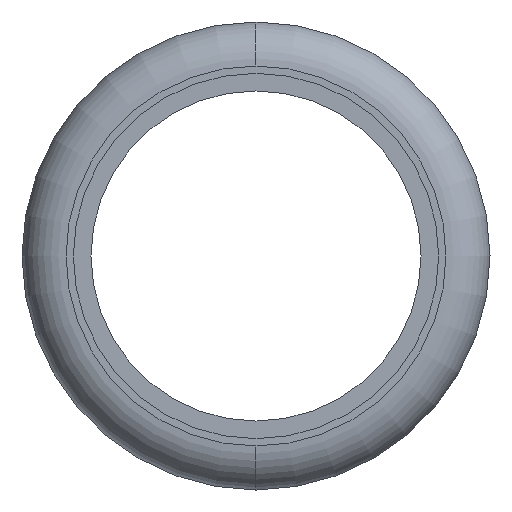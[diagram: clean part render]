
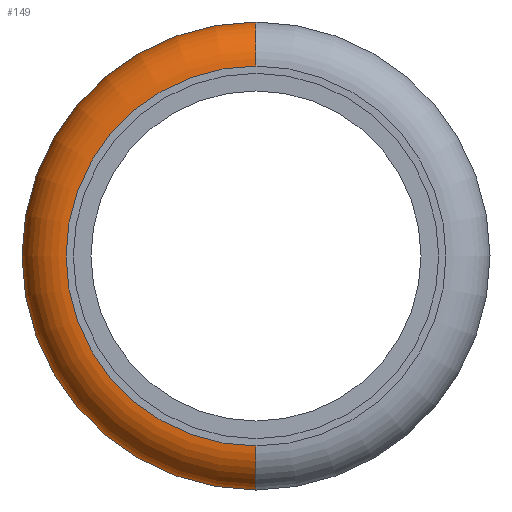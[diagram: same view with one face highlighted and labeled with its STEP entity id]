
A CAD part, left-side view. The second image highlights one B-rep face of the part: STEP entity #149.
In plain terms, the highlighted toroidal (fillet/blend) face has major radius 12.95 mm and minor radius 3 mm.
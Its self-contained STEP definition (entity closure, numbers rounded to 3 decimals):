
#149=ADVANCED_FACE('',(#334),#335,.T.);
#334=FACE_OUTER_BOUND('',#570,.T.);
#335=TOROIDAL_SURFACE('',#571,12.95,3.);
#570=EDGE_LOOP('',(#935,#936,#937,#938));
#571=AXIS2_PLACEMENT_3D('',#939,#940,#941);
#935=ORIENTED_EDGE('',*,*,#1329,.T.);
#936=ORIENTED_EDGE('',*,*,#1395,.F.);
#937=ORIENTED_EDGE('',*,*,#1396,.F.);
#938=ORIENTED_EDGE('',*,*,#1397,.F.);
#939=CARTESIAN_POINT('',(8.,0.0,0.));
#940=DIRECTION('',(-1.0,0.0,0.));
#941=DIRECTION('',(0.,0.0,1.0));
#1329=EDGE_CURVE('',#1528,#1527,#1572,.T.);
#1395=EDGE_CURVE('',#1674,#1527,#1675,.T.);
#1396=EDGE_CURVE('',#1676,#1674,#1677,.T.);
#1397=EDGE_CURVE('',#1528,#1676,#1678,.T.);
#1527=VERTEX_POINT('',#1826);
#1528=VERTEX_POINT('',#1827);
#1572=CIRCLE('',#1871,15.95);
#1674=VERTEX_POINT('',#1987);
#1675=CIRCLE('',#1988,3.);
#1676=VERTEX_POINT('',#1989);
#1677=CIRCLE('',#1990,12.95);
#1678=CIRCLE('',#1991,3.);
#1826=CARTESIAN_POINT('',(8.,0.,-15.95));
#1827=CARTESIAN_POINT('',(8.,0.,15.95));
#1871=AXIS2_PLACEMENT_3D('',#2222,#2223,#2224);
#1987=CARTESIAN_POINT('',(5.,0.,-12.95));
#1988=AXIS2_PLACEMENT_3D('',#2344,#2345,#2346);
#1989=CARTESIAN_POINT('',(5.,0.,12.95));
#1990=AXIS2_PLACEMENT_3D('',#2347,#2348,#2349);
#1991=AXIS2_PLACEMENT_3D('',#2350,#2351,#2352);
#2222=CARTESIAN_POINT('',(8.,0.0,0.));
#2223=DIRECTION('',(-1.0,0.0,0.));
#2224=DIRECTION('',(0.,0.0,1.0));
#2344=CARTESIAN_POINT('',(8.,0.,-12.95));
#2345=DIRECTION('',(0.,-1.0,0.));
#2346=DIRECTION('',(0.,0.,-1.0));
#2347=CARTESIAN_POINT('',(5.,0.0,0.));
#2348=DIRECTION('',(-1.0,0.0,0.));
#2349=DIRECTION('',(0.,0.0,-1.0));
#2350=CARTESIAN_POINT('',(8.,0.,12.95));
#2351=DIRECTION('',(0.,-1.0,0.));
#2352=DIRECTION('',(0.,0.,1.0));
